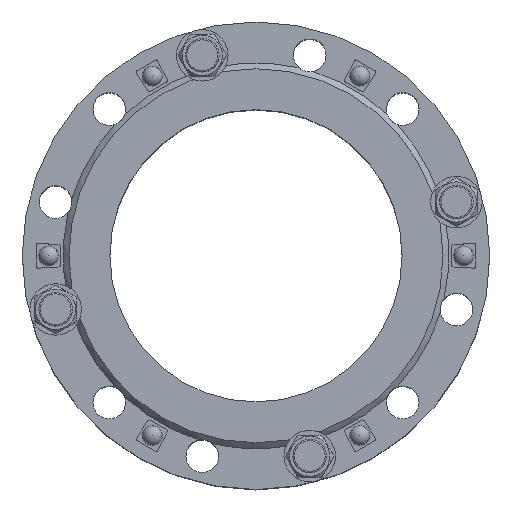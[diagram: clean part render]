
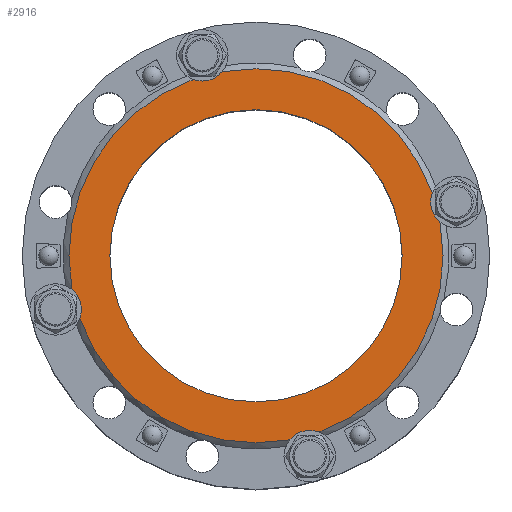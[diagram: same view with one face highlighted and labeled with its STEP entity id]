
A CAD part, top view. The second image highlights one B-rep face of the part: STEP entity #2916.
In plain terms, the highlighted planar face has unit normal (0, 0, 1) as drawn and (0, 0, -1) by its records, which use the part's own axes.
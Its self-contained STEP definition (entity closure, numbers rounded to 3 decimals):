
#2916=ADVANCED_FACE('',(#4433,#4435),#4437,.F.);
#4433=FACE_BOUND('',#4434,.T.);
#4434=EDGE_LOOP('',(#6491));
#4435=FACE_BOUND('',#4436,.T.);
#4436=EDGE_LOOP('',(#6492));
#4437=PLANE('',#4438);
#4438=AXIS2_PLACEMENT_3D('',#4439,#4440,#4441);
#4439=CARTESIAN_POINT('',(0.,0.,0.));
#4440=DIRECTION('',(0.,0.,1.));
#4441=DIRECTION('',(-1.,0.,0.));
#6491=ORIENTED_EDGE('',*,*,#7277,.F.);
#6492=ORIENTED_EDGE('',*,*,#7375,.T.);
#7277=EDGE_CURVE('',#8264,#8264,#8265,.T.);
#7375=EDGE_CURVE('',#8412,#8412,#8413,.T.);
#8264=VERTEX_POINT('',#14767);
#8265=CIRCLE('',#14768,160.);
#8412=VERTEX_POINT('',#15137);
#8413=CIRCLE('',#15138,125.);
#14767=CARTESIAN_POINT('',(-160.,0.,0.));
#14768=AXIS2_PLACEMENT_3D('',#14769,#14770,#14771);
#14769=CARTESIAN_POINT('',(0.,0.,0.));
#14770=DIRECTION('',(0.,0.,1.));
#14771=DIRECTION('',(-1.,0.,0.));
#15137=CARTESIAN_POINT('',(-125.,0.,0.));
#15138=AXIS2_PLACEMENT_3D('',#15139,#15140,#15141);
#15139=CARTESIAN_POINT('',(0.,0.,0.));
#15140=DIRECTION('',(0.,0.,1.));
#15141=DIRECTION('',(-1.,0.,0.));
